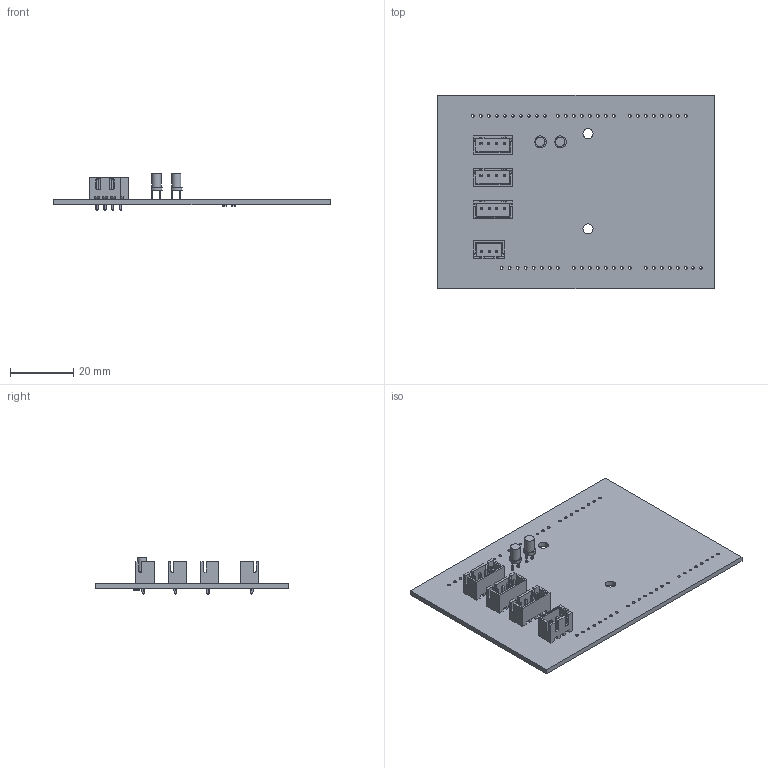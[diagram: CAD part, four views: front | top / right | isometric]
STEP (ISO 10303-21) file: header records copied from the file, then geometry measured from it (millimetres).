
FILE_DESCRIPTION(('KiCad electronic assembly'),'2;1');
FILE_NAME('shiel fisol.step','2025-05-09T18:23:05',('Pcbnew'),('Kicad'), 'Open CASCADE STEP processor 7.8','KiCad to STEP converter','Unknown' );
FILE_SCHEMA(('AUTOMOTIVE_DESIGN { 1 0 10303 214 1 1 1 1 }'));
Length unit declared in the file: millimetre
Products named in the file (10): shiel fisol 1; LED_D3.0mm_FlatTop; JST_XH_B4B-XH-A_1x04_P2.50mm_Vertical; JST_B4B_XH_A; JST_XH_B3B-XH-A_1x03_P2.50mm_Vertical; JST_B3B_XH_A; R_0805_2012Metric; shiel fisol_PCB
Assembly tree (13 placements, depth 3):
  shiel fisol 1
    LED_D3.0mm_FlatTop  x2
      LED_D3.0mm_FlatTop
    JST_XH_B4B-XH-A_1x04_P2.50mm_Vertical  x3
      JST_B4B_XH_A
    JST_XH_B3B-XH-A_1x03_P2.50mm_Vertical
      JST_B3B_XH_A
    R_0805_2012Metric  x2
      R_0805_2012Metric
    shiel fisol_PCB
Bounding box: 87.6 x 61.4 x 11.7 mm (x, y, z)
Volume: 9546.7 mm3; surface area: 14072.3 mm2
Topology: 9 solids, 9 shells, 701 faces, 1841 edges, 1192 vertices
Faces by surface type: plane 594, cylinder 107
Full cylindrical faces by diameter (mm): 0.85 x50, 0.9 x4, 0.95 x15, 3 x2, 3.2 x2
Entity records: 14186 total; most frequent: CARTESIAN_POINT 2048, ORIENTED_EDGE 2008, DIRECTION 1965, EDGE_CURVE 1004, LINE 825, VECTOR 825, VERTEX_POINT 653, AXIS2_PLACEMENT_3D 570
